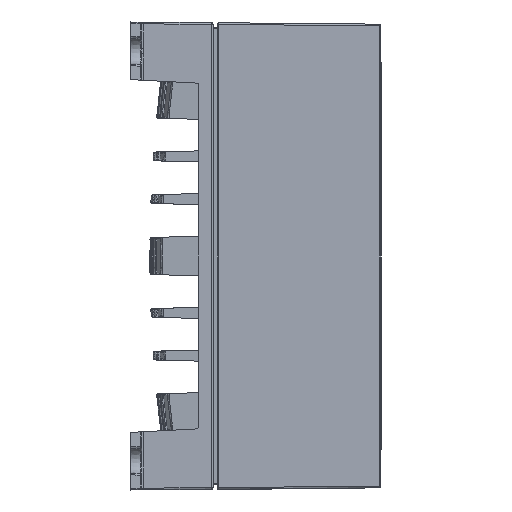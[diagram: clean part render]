
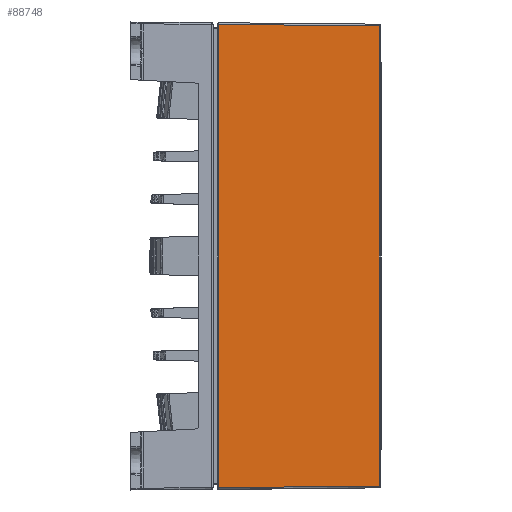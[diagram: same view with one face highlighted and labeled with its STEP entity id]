
A CAD part, left-side view. The second image highlights one B-rep face of the part: STEP entity #88748.
In plain terms, the highlighted planar face has unit normal (-1, -0.009, 0) as drawn and (0, -1, -0.009) by its records, which use the part's own axes.
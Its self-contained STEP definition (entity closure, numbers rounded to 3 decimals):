
#2866=PLANE('',#96224);
#7607=FACE_OUTER_BOUND('',#12668,.T.);
#12668=EDGE_LOOP('',(#75979,#75980,#75981,#75982));
#21092=LINE('',#142427,#30626);
#21158=LINE('',#142614,#30692);
#21454=LINE('',#145064,#30988);
#21455=LINE('',#145065,#30989);
#30626=VECTOR('',#114753,10.);
#30692=VECTOR('',#114965,10.);
#30988=VECTOR('',#116355,10.);
#30989=VECTOR('',#116356,10.);
#42111=VERTEX_POINT('',#142424);
#42112=VERTEX_POINT('',#142426);
#42159=VERTEX_POINT('',#142611);
#42160=VERTEX_POINT('',#142613);
#53311=EDGE_CURVE('',#42111,#42112,#21092,.T.);
#53407=EDGE_CURVE('',#42160,#42159,#21158,.T.);
#54011=EDGE_CURVE('',#42160,#42111,#21454,.T.);
#54012=EDGE_CURVE('',#42112,#42159,#21455,.T.);
#75979=ORIENTED_EDGE('',*,*,#54011,.F.);
#75980=ORIENTED_EDGE('',*,*,#53407,.T.);
#75981=ORIENTED_EDGE('',*,*,#54012,.F.);
#75982=ORIENTED_EDGE('',*,*,#53311,.F.);
#88748=ADVANCED_FACE('',(#7607),#2866,.T.);
#96224=AXIS2_PLACEMENT_3D('',#145063,#116353,#116354);
#114753=DIRECTION('',(-1.,0.,0.));
#114965=DIRECTION('',(-1.,0.,0.));
#116353=DIRECTION('center_axis',(0.,-1.,
-0.009));
#116354=DIRECTION('ref_axis',(0.,0.009,-1.));
#116355=DIRECTION('',(-0.009,0.009,-1.));
#116356=DIRECTION('',(-0.009,-0.009,1.));
#142424=CARTESIAN_POINT('',(40.452,-40.752,-27.553));
#142426=CARTESIAN_POINT('',(-40.452,-40.752,-27.553));
#142427=CARTESIAN_POINT('',(-20.5,-40.752,-27.553));
#142611=CARTESIAN_POINT('',(-40.699,-40.999,0.75));
#142613=CARTESIAN_POINT('',(40.699,-40.999,0.75));
#142614=CARTESIAN_POINT('',(-20.581,-40.999,0.75));
#145063=CARTESIAN_POINT('Origin',(-41.,-40.878,-13.099));
#145064=CARTESIAN_POINT('',(40.575,-40.875,-13.454));
#145065=CARTESIAN_POINT('',(-40.575,-40.875,-13.454));
